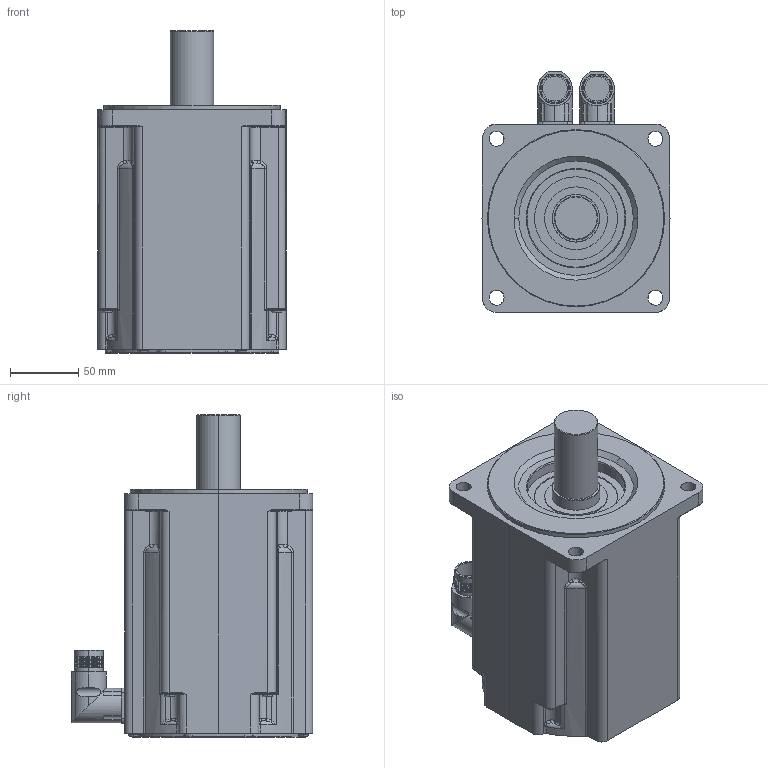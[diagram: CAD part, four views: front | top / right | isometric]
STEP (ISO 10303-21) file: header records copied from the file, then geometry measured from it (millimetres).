
FILE_DESCRIPTION (( 'STEP AP214' ), '1' );
FILE_NAME ('MR7763-Ux-Nxx-G01-A0D-M0-P0.stp', '2009-04-08T13:46:00', ( 'SysAdmin' ), ( 'SolidWorks' ), 'SwSTEP 2.0', 'SolidWorks 2009', '' );
FILE_SCHEMA (( 'AUTOMOTIVE_DESIGN' ));
Length unit declared in the file: millimetre
Products named in the file (1): MR7763-Ux-Nxx-G01-A0D-M0-P0
Bounding box: 138 x 177 x 236.7 mm (x, y, z)
Volume: 3032277.6 mm3; surface area: 151176.6 mm2
Topology: 1 solids, 1 shells, 628 faces, 1528 edges, 904 vertices
Faces by surface type: cylinder 206, cone 118, plane 116, bspline 116, torus 72
Entity records: 29687 total; most frequent: CARTESIAN_POINT 9015, ORIENTED_EDGE 3008, DIRECTION 2808, EDGE_CURVE 1504, AXIS2_PLACEMENT_3D 1207, VERTEX_POINT 904, CIRCLE 694, EDGE_LOOP 662
